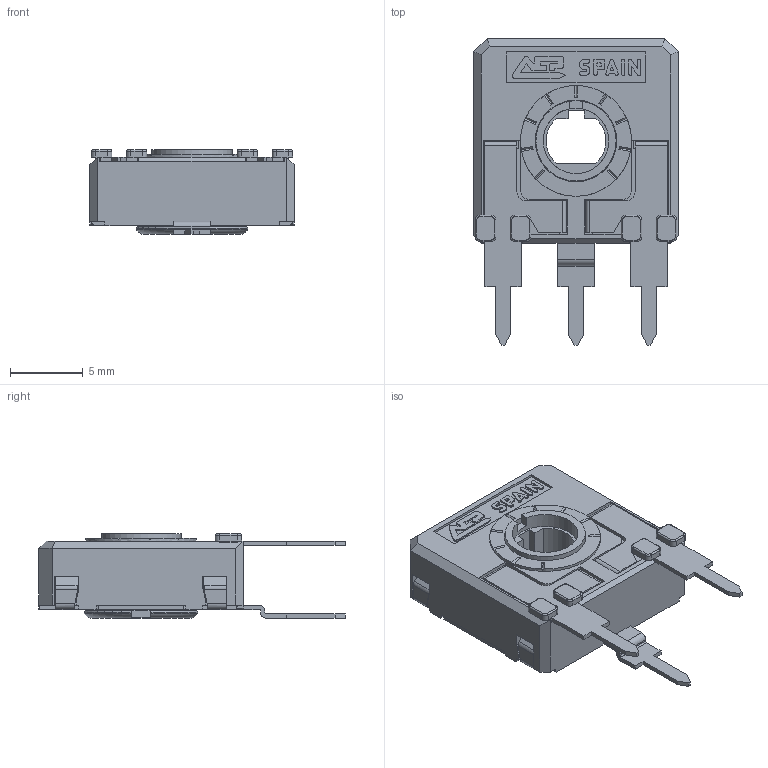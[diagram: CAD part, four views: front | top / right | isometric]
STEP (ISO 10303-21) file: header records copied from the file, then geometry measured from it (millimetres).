
FILE_DESCRIPTION(/* description */ (''),/* implementation_level */ '2;1');
FILE_NAME(/* name */ '\\SERVERACP\intercambio\Ignacio Santa Cecilia\Nueva WEB 2025\CA14 - CE14\CA14TH5.stp',/* time_stamp */ '2025-06-13T11:26:31+02:00',/* author */ ('CEM'),/* organization */ (''),/* preprocessor_version */ 'ST-DEVELOPER v17',/* originating_system */ 'Autodesk Inventor 2018',/* authorisation */ '');
FILE_SCHEMA (('AUTOMOTIVE_DESIGN { 1 0 10303 214 3 1 1 }'));
Length unit declared in the file: millimetre
Products named in the file (1): CARCASA CA14 PGA
Bounding box: 14 x 21 x 5.8 mm (x, y, z)
Volume: 528.7 mm3; surface area: 1456.5 mm2
Topology: 1 solids, 1 shells, 670 faces, 1893 edges, 1219 vertices
Faces by surface type: plane 498, cylinder 135, torus 23, bspline 8, cone 6
Full cylindrical faces by diameter (mm): 4.5 x1, 5.5 x1, 5.6 x1, 5.752 x1, 6.8 x1, 7.6 x1
Entity records: 21883 total; most frequent: CARTESIAN_POINT 4080, ORIENTED_EDGE 3786, DIRECTION 3529, EDGE_CURVE 1893, LINE 1493, VECTOR 1493, VERTEX_POINT 1219, AXIS2_PLACEMENT_3D 1018
